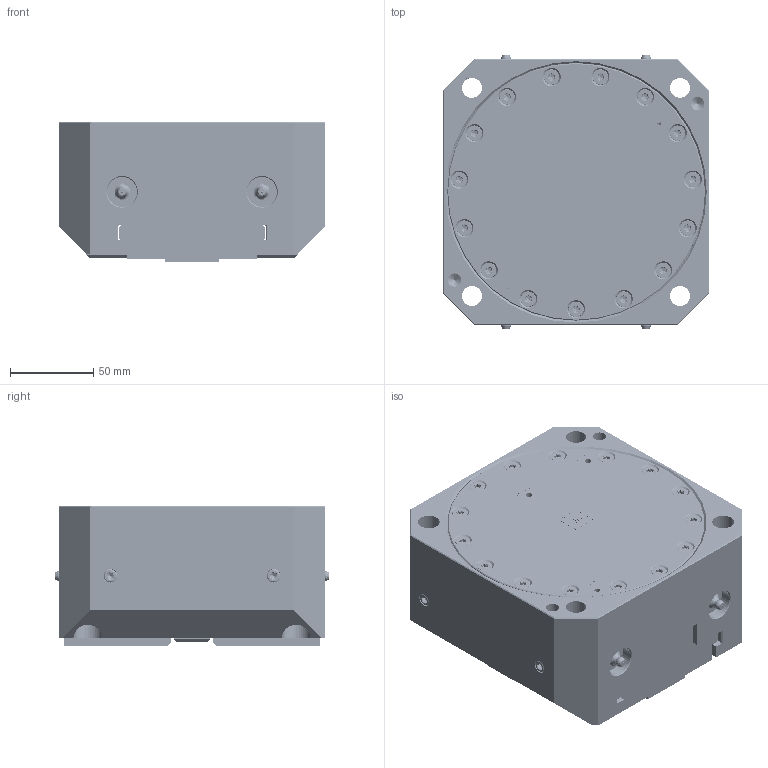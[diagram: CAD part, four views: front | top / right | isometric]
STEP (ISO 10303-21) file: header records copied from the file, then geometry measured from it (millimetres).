
FILE_DESCRIPTION (( 'STEP AP214' ), '1' );
FILE_NAME ('APV-160-A-WEBSITE.STEP', '2026-07-13T15:22:35', ( '' ), ( '' ), 'SwSTEP 2.0', 'SolidWorks 2024', '' );
FILE_SCHEMA (( 'AUTOMOTIVE_DESIGN' ));
Length unit declared in the file: millimetre
Products named in the file (10): APV-160-9 WEBSITE; APV-160-A-WEBSITE; GREASE-STRAIGHT-BUTTON.M8X1.25.UNK.ZN_GREASE-STRAIGHT-BUTTON.M8X1.25.UNK.ZN; PLUG-SOCKET.G18.UNK.ZN.SLDPRT_PLUG-SOCKET.G18.UNK.ZN.SLDPRT; APV-160-7 WEBSITE; APV-160-A-1 WEBSITE_5IN open; APV-160-A-2 WEBSITE; M5X12.FHCS.SS_M5X12.FHCS.SS; M8X10.SETSCREW-CUP.BL_M8X10.SETSCREW-CUP.BL; APV-160-8 WEBSITE
Assembly tree (37 placements, depth 2):
  APV-160-A-WEBSITE
    APV-160-A-1 WEBSITE_5IN open
    APV-160-8 WEBSITE
    APV-160-9 WEBSITE
    APV-160-A-2 WEBSITE  x2
    APV-160-7 WEBSITE  x2
    PLUG-SOCKET.G18.UNK.ZN.SLDPRT_PLUG-SOCKET.G18.UNK.ZN.SLDPRT  x2
    GREASE-STRAIGHT-BUTTON.M8X1.25.UNK.ZN_GREASE-STRAIGHT-BUTTON.M8X1.25.UNK.ZN  x4
    M5X12.FHCS.SS_M5X12.FHCS.SS  x19
    M8X10.SETSCREW-CUP.BL_M8X10.SETSCREW-CUP.BL  x5
Bounding box: 160 x 164.54 x 84.17 mm (x, y, z)
Volume: 1796362.2 mm3; surface area: 265046.9 mm2
Topology: 47 solids, 47 shells, 2917 faces, 7660 edges, 4804 vertices
Faces by surface type: plane 1150, cylinder 932, cone 619, bspline 135, torus 73, sphere 8
Full cylindrical faces by diameter (mm): 1.5 x4, 1.875 x4, 2 x5, 2.5 x5, 3 x6, 3.175 x2, 3.3 x1, 4 x2, 4.2 x19, 5 x228, 5.013 x1, 5.08 x1, 5.3 x15, 5.5 x4, 6.746 x2, 6.8 x28, 7.5 x4, 7.964 x4, 8 x4, 8.026 x2, 8.55 x4, 8.8 x2, 9.3 x19, 9.728 x2, 10.701 x4, 12.013 x4, 13 x2, 14 x2, 17.5 x4, 18 x4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
Entity records: 44848 total; most frequent: CARTESIAN_POINT 18476, ORIENTED_EDGE 5238, DIRECTION 4962, EDGE_CURVE 2619, VERTEX_POINT 1829, AXIS2_PLACEMENT_3D 1714, VECTOR 1534, LINE 1534
